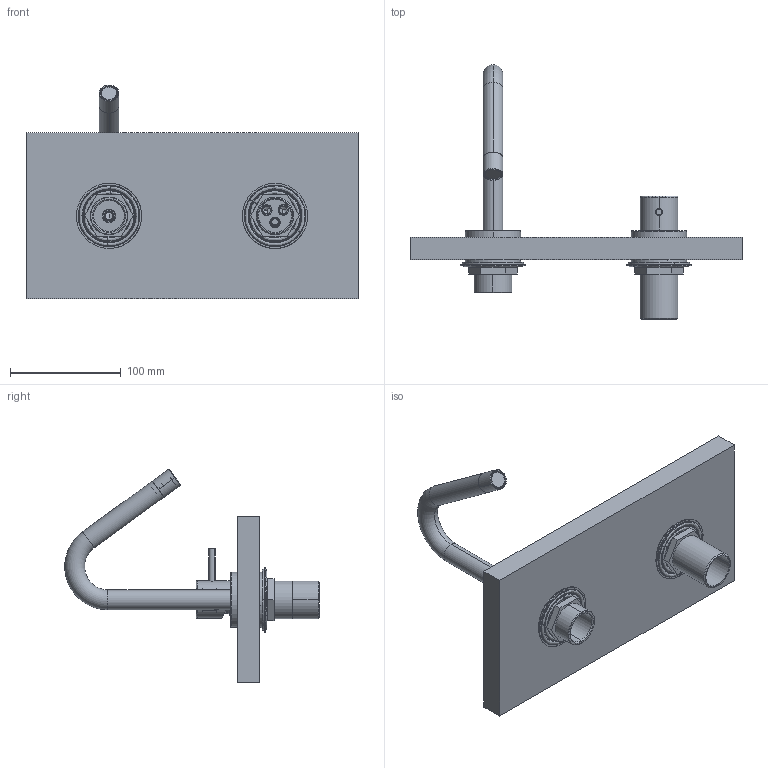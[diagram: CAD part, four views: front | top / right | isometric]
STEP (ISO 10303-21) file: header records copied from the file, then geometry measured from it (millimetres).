
FILE_DESCRIPTION (( 'STEP AP203' ), '1' );
FILE_NAME ('MME7.STEP', '2020-09-09T12:39:48', ( '' ), ( '' ), 'SwSTEP 2.0', 'SolidWorks 2020', '' );
FILE_SCHEMA (( 'CONFIG_CONTROL_DESIGN' ));
Length unit declared in the file: millimetre
Products named in the file (30): OR212ACS; C24.0061.00.1; CTM1; OR992262ACS; RACAREANICR; EU0029_1; EU1472_0; AERA161001; MME25; C24.0028.00.0; C24.1904.00.0; eu01_flangia_sagomata; EU0648_0; OR1052ACS; eu01_rondella_gomma; eu01_dado_esa_x_codolo; TOP IN QUERCIA 2; MME7; C11.14.0009; C24.0119.00.2; FISSGECO001; GRANO M4X3; EU0649_0; C24.0705.00.0; RC014NK; C47.00.0023.01; eu01_rondella_gomma_spugna; C10.00.0013; C24.0120.00.1
Assembly tree (35 placements, depth 4):
  MME7
    TOP IN QUERCIA 2
    CTM1
      C24.0061.00.1
      EU0029_1
      OR212ACS
      GRANO M4X3
      AERA161001
      RACAREANICR
        OR1052ACS
        RC014NK
      OR992262ACS  x2
      EU0649_0  x2
      EU0648_0
      EU1472_0
    MME25
      C24.1904.00.0
      C24.0119.00.2
      C24.0120.00.1
      C10.00.0013
      C24.0705.00.0
      C11.14.0009
      C24.0028.00.0
      C47.00.0023.01
    FISSGECO001
      eu01_flangia_sagomata
      eu01_rondella_gomma
      eu01_rondella_gomma_spugna
      eu01_dado_esa_x_codolo
    FISSGECO001
      eu01_flangia_sagomata
      eu01_rondella_gomma
      eu01_rondella_gomma_spugna
      eu01_dado_esa_x_codolo
Bounding box: 300 x 229.89 x 193.14 mm (x, y, z)
Volume: 1002064 mm3; surface area: 227671.5 mm2
Topology: 29 solids, 39 shells, 1230 faces, 3329 edges, 2164 vertices
Faces by surface type: cylinder 439, plane 367, cone 210, bspline 138, torus 76
Entity records: 46352 total; most frequent: CARTESIAN_POINT 15479, ORIENTED_EDGE 5670, DIRECTION 5658, EDGE_CURVE 3065, AXIS2_PLACEMENT_3D 2248, VERTEX_POINT 2008, EDGE_LOOP 1255, CIRCLE 1182
